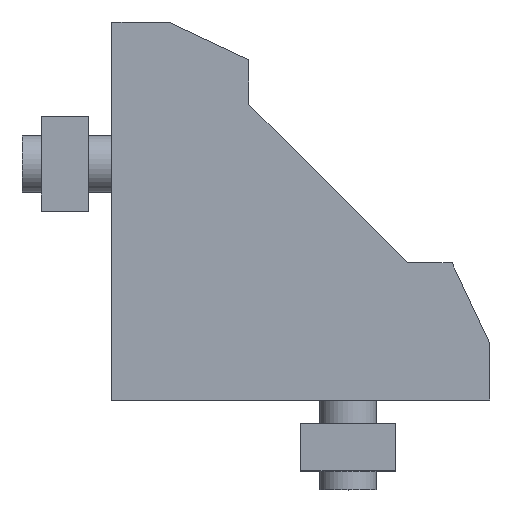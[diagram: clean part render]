
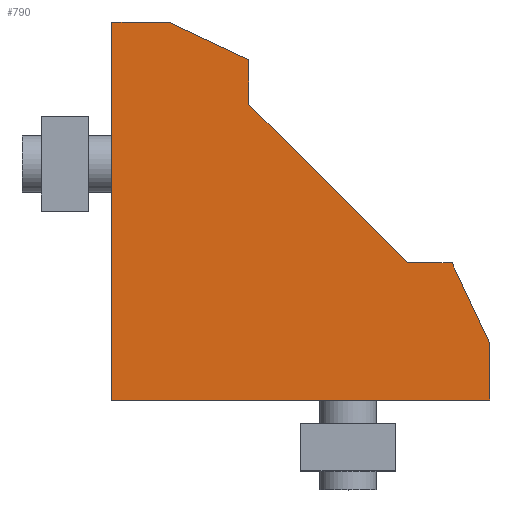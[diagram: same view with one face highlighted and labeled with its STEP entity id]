
A CAD part, top view. The second image highlights one B-rep face of the part: STEP entity #790.
In plain terms, the highlighted planar face has unit normal (0, 0, 1).
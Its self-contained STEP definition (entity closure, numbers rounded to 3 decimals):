
#261=CARTESIAN_POINT('',(36.,14.5,10.));
#262=VERTEX_POINT('',#261);
#269=CARTESIAN_POINT('',(40.,6.,10.));
#270=VERTEX_POINT('',#269);
#271=CARTESIAN_POINT('',(36.,14.5,10.));
#272=DIRECTION('',(0.426,-0.905,0.0));
#273=VECTOR('',#272,9.394);
#274=LINE('',#271,#273);
#275=EDGE_CURVE('',#262,#270,#274,.T.);
#299=CARTESIAN_POINT('',(31.3,14.5,10.));
#300=VERTEX_POINT('',#299);
#307=CARTESIAN_POINT('',(31.3,14.5,10.));
#308=DIRECTION('',(1.0,0.0,0.0));
#309=VECTOR('',#308,4.7);
#310=LINE('',#307,#309);
#311=EDGE_CURVE('',#300,#262,#310,.T.);
#330=CARTESIAN_POINT('',(14.5,31.3,10.));
#331=VERTEX_POINT('',#330);
#338=CARTESIAN_POINT('',(14.5,31.3,10.));
#339=DIRECTION('',(0.707,-0.707,0.0));
#340=VECTOR('',#339,23.759);
#341=LINE('',#338,#340);
#342=EDGE_CURVE('',#331,#300,#341,.T.);
#361=CARTESIAN_POINT('',(14.5,36.,10.));
#362=VERTEX_POINT('',#361);
#369=CARTESIAN_POINT('',(14.5,36.,10.));
#370=DIRECTION('',(0.0,-1.0,0.0));
#371=VECTOR('',#370,4.7);
#372=LINE('',#369,#371);
#373=EDGE_CURVE('',#362,#331,#372,.T.);
#392=CARTESIAN_POINT('',(6.,40.,10.));
#393=VERTEX_POINT('',#392);
#400=CARTESIAN_POINT('',(6.,40.,10.));
#401=DIRECTION('',(0.905,-0.426,0.0));
#402=VECTOR('',#401,9.394);
#403=LINE('',#400,#402);
#404=EDGE_CURVE('',#393,#362,#403,.T.);
#680=CARTESIAN_POINT('',(0.0,0.0,10.));
#681=VERTEX_POINT('',#680);
#682=CARTESIAN_POINT('',(0.,40.,10.));
#683=VERTEX_POINT('',#682);
#684=CARTESIAN_POINT('',(0.0,0.0,10.));
#685=DIRECTION('',(0.0,1.0,0.0));
#686=VECTOR('',#685,40.);
#687=LINE('',#684,#686);
#688=EDGE_CURVE('',#681,#683,#687,.T.);
#714=CARTESIAN_POINT('',(0.,40.,10.));
#715=DIRECTION('',(1.0,0.0,0.0));
#716=VECTOR('',#715,6.);
#717=LINE('',#714,#716);
#718=EDGE_CURVE('',#683,#393,#717,.T.);
#733=CARTESIAN_POINT('',(40.,0.0,10.));
#734=VERTEX_POINT('',#733);
#735=CARTESIAN_POINT('',(40.,6.,10.));
#736=DIRECTION('',(0.0,-1.0,0.0));
#737=VECTOR('',#736,6.);
#738=LINE('',#735,#737);
#739=EDGE_CURVE('',#270,#734,#738,.T.);
#759=CARTESIAN_POINT('',(40.,0.0,10.));
#760=DIRECTION('',(-1.0,0.0,0.0));
#761=VECTOR('',#760,40.);
#762=LINE('',#759,#761);
#763=EDGE_CURVE('',#734,#681,#762,.T.);
#774=CARTESIAN_POINT('',(15.851,15.851,10.));
#775=DIRECTION('',(0.0,0.0,1.0));
#776=DIRECTION('',(1.0,0.0,0.0));
#777=AXIS2_PLACEMENT_3D('',#774,#775,#776);
#778=PLANE('',#777);
#779=ORIENTED_EDGE('',*,*,#688,.F.);
#780=ORIENTED_EDGE('',*,*,#763,.F.);
#781=ORIENTED_EDGE('',*,*,#739,.F.);
#782=ORIENTED_EDGE('',*,*,#275,.F.);
#783=ORIENTED_EDGE('',*,*,#311,.F.);
#784=ORIENTED_EDGE('',*,*,#342,.F.);
#785=ORIENTED_EDGE('',*,*,#373,.F.);
#786=ORIENTED_EDGE('',*,*,#404,.F.);
#787=ORIENTED_EDGE('',*,*,#718,.F.);
#788=EDGE_LOOP('',(#779,#780,#781,#782,#783,#784,#785,#786,#787));
#789=FACE_OUTER_BOUND('',#788,.T.);
#790=ADVANCED_FACE('',(#789),#778,.T.);
